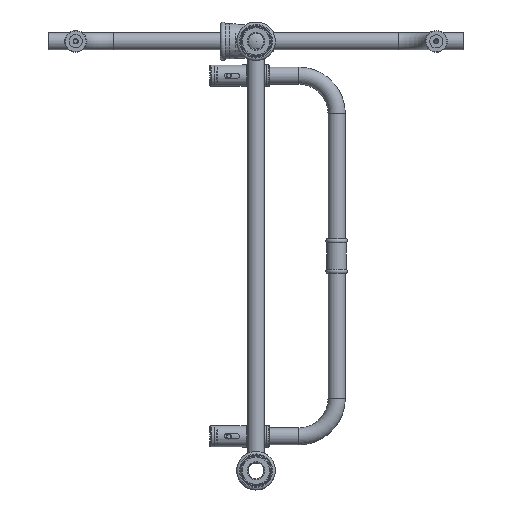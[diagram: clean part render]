
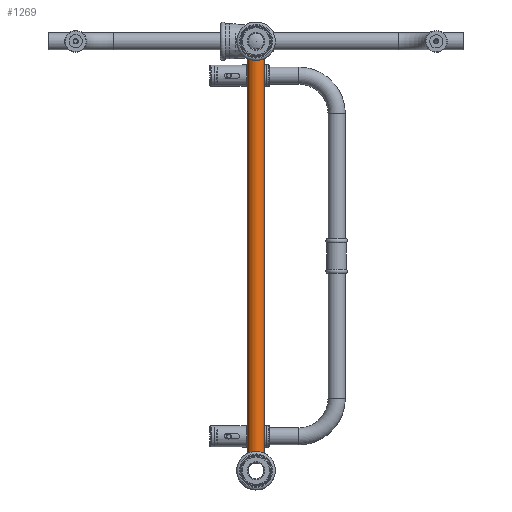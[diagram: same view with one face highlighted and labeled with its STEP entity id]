
A CAD part, front view. The second image highlights one B-rep face of the part: STEP entity #1269.
In plain terms, the highlighted cylindrical face has radius 10 mm (diameter 20 mm), a full revolution.
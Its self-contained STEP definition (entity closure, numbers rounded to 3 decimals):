
#1269 = ADVANCED_FACE( '', ( #2695, #2696 ), #2697, .T. );
#2695 = FACE_OUTER_BOUND( '', #4338, .T. );
#2696 = FACE_OUTER_BOUND( '', #4339, .T. );
#2697 = CYLINDRICAL_SURFACE( '', #4340, 10. );
#4338 = EDGE_LOOP( '', ( #6421 ) );
#4339 = EDGE_LOOP( '', ( #6422 ) );
#4340 = AXIS2_PLACEMENT_3D( '', #6423, #6424, #6425 );
#6421 = ORIENTED_EDGE( '', *, *, #6977, .T. );
#6422 = ORIENTED_EDGE( '', *, *, #7461, .F. );
#6423 = CARTESIAN_POINT( '', ( 242., 0., 0. ) );
#6424 = DIRECTION( '', ( 1., 0., 0. ) );
#6425 = DIRECTION( '', ( 0., 0., 1. ) );
#6977 = EDGE_CURVE( '', #7764, #7764, #7765, .T. );
#7461 = EDGE_CURVE( '', #8500, #8500, #8501, .T. );
#7764 = VERTEX_POINT( '', #11833 );
#7765 = CIRCLE( '', #11834, 10. );
#8500 = VERTEX_POINT( '', #15380 );
#8501 = CIRCLE( '', #15381, 10. );
#11833 = CARTESIAN_POINT( '', ( 242., 10., 0. ) );
#11834 = AXIS2_PLACEMENT_3D( '', #15770, #15771, #15772 );
#15380 = CARTESIAN_POINT( '', ( -242., 10., 0. ) );
#15381 = AXIS2_PLACEMENT_3D( '', #16423, #16424, #16425 );
#15770 = CARTESIAN_POINT( '', ( 242., 0., 0. ) );
#15771 = DIRECTION( '', ( -1., 0., 0. ) );
#15772 = DIRECTION( '', ( 0., 1., 0. ) );
#16423 = CARTESIAN_POINT( '', ( -242., 0., 0. ) );
#16424 = DIRECTION( '', ( -1., 0., 0. ) );
#16425 = DIRECTION( '', ( 0., 1., 0. ) );
